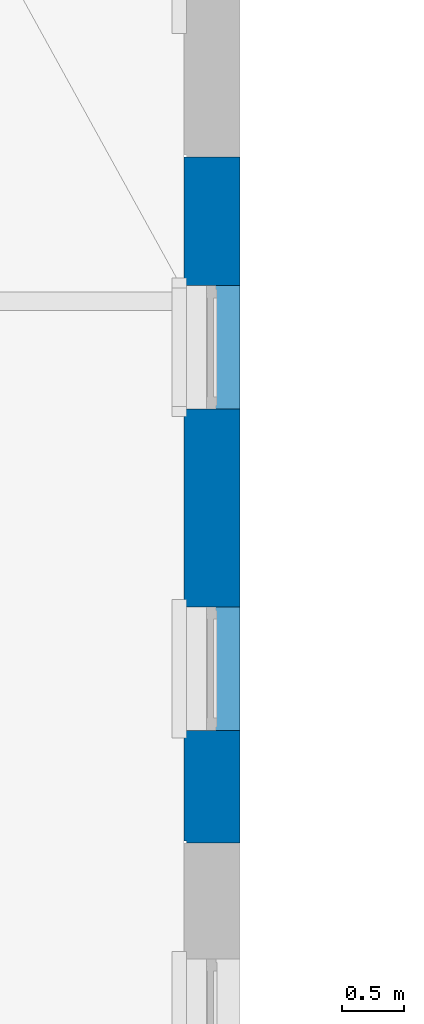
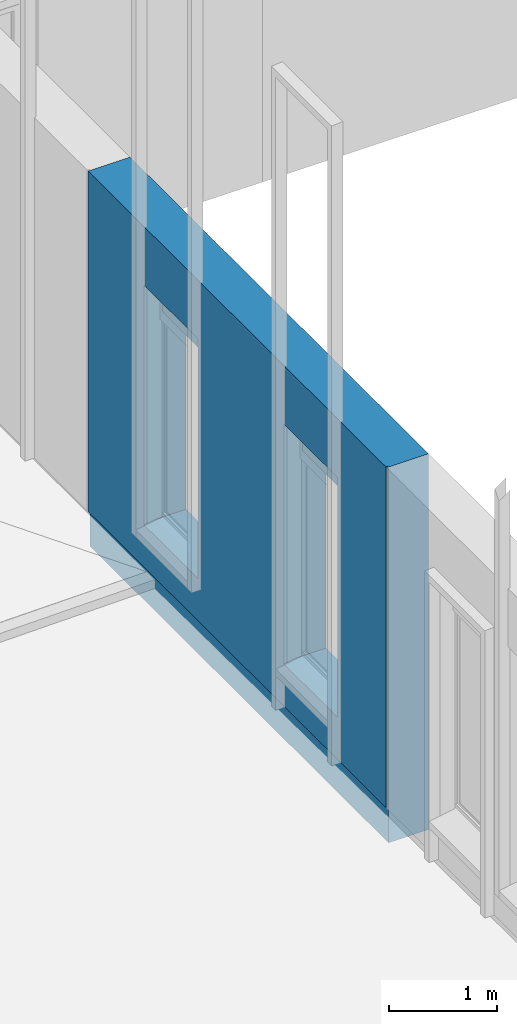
# One storey, part 19 of 77: 1 wall, 4 openings.
"""IFC2X3 building model written with IfcOpenShell, lengths in millimetres."""

from ifc_helpers import new_model, entity, si_unit, converted_unit, derived_unit, direction, frame, frame_2d, origin, place, context, subcontext, project, spatial, rectangle, extrude, faceted_brep, material, layer, layer_set, layer_usage, type_object, element, save


model = new_model("IFC2X3")

# Units and contexts
model_context = context("Model", 3, precision=0.01, world=origin(), true_north=direction((6.12303176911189e-17, 1.0)))
body_context = subcontext(model_context, "Body", "Model", "MODEL_VIEW")
ifc_project = project(units=[si_unit("LENGTHUNIT", "METRE", prefix="MILLI"), si_unit("AREAUNIT", "SQUARE_METRE"), si_unit("VOLUMEUNIT", "CUBIC_METRE"), converted_unit("PLANEANGLEUNIT", "DEGREE", entity("IfcRatioMeasure", 0.0174532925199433), si_unit("PLANEANGLEUNIT", "RADIAN"), dimensions=[0, 0, 0, 0, 0, 0, 0]), si_unit("MASSUNIT", "GRAM", prefix="KILO"), derived_unit("MASSDENSITYUNIT", [(si_unit("MASSUNIT", "GRAM", prefix="KILO"), 1), (si_unit("LENGTHUNIT", "METRE"), -3)]), si_unit("TIMEUNIT", "SECOND"), si_unit("FREQUENCYUNIT", "HERTZ"), si_unit("THERMODYNAMICTEMPERATUREUNIT", "DEGREE_CELSIUS"), derived_unit("THERMALTRANSMITTANCEUNIT", [(si_unit("MASSUNIT", "GRAM", prefix="KILO"), 1), (si_unit("THERMODYNAMICTEMPERATUREUNIT", "KELVIN"), -1), (si_unit("TIMEUNIT", "SECOND"), -3)]), derived_unit("VOLUMETRICFLOWRATEUNIT", [(si_unit("LENGTHUNIT", "METRE"), 3), (si_unit("TIMEUNIT", "SECOND"), -1)]), si_unit("ELECTRICCURRENTUNIT", "AMPERE"), si_unit("ELECTRICVOLTAGEUNIT", "VOLT"), si_unit("POWERUNIT", "WATT"), si_unit("FORCEUNIT", "NEWTON", prefix="KILO"), si_unit("ILLUMINANCEUNIT", "LUX"), si_unit("LUMINOUSFLUXUNIT", "LUMEN"), si_unit("LUMINOUSINTENSITYUNIT", "CANDELA"), derived_unit("USERDEFINED", [(si_unit("MASSUNIT", "GRAM", prefix="KILO"), -1), (si_unit("LENGTHUNIT", "METRE"), -2), (si_unit("TIMEUNIT", "SECOND"), 3), (si_unit("LUMINOUSFLUXUNIT", "LUMEN"), 1)]), derived_unit("LINEARVELOCITYUNIT", [(si_unit("LENGTHUNIT", "METRE"), 1), (si_unit("TIMEUNIT", "SECOND"), -1)]), si_unit("PRESSUREUNIT", "PASCAL"), derived_unit("USERDEFINED", [(si_unit("LENGTHUNIT", "METRE"), -2), (si_unit("MASSUNIT", "GRAM", prefix="KILO"), 1), (si_unit("TIMEUNIT", "SECOND"), -2)])], contexts=[model_context])

# Site, building, storey
site_placement = place(None, origin())
site = spatial("IfcSite", under=ifc_project, at=site_placement, Name="Default", CompositionType="ELEMENT")
building_placement = place(site_placement, origin())
building = spatial("IfcBuilding", under=site, at=building_placement, CompositionType="ELEMENT")
storey_placement = place(building_placement, origin())
storey = spatial("IfcBuildingStorey", under=building, at=storey_placement, Name="1. KORRUS", CompositionType="ELEMENT", Elevation=0.0)

# Wall, openings
ifc_material_1 = material(Name="RECKLI 1 173 THUR by Polantis 2016-toon3")
ifc_layer_1 = layer(ifc_material_1, 100.0)
ifc_material_2 = material(Name="Soojusisolatsioon EPS")
ifc_layer_2 = layer(ifc_material_2, 200.0)
ifc_material_3 = material(Name="r/b")
ifc_layer_3 = layer(ifc_material_3, 150.0)
ifc_layer_set = layer_set([ifc_layer_1, ifc_layer_2, ifc_layer_3], Name="Basic Wall:VS-1_toon-b")
ifc_layer_usage = layer_usage(ifc_layer_set, "AXIS2", "POSITIVE", -225.0)
wall_type = type_object("IfcWallType", Name="Basic Wall:VS-1_toon-b", PredefinedType="STANDARD", material=ifc_layer_set)
wall_placement = place(storey_placement, frame((-225.0, 23290.0, -400.0), z_axis=(0.0, 0.0, 1.0), x_axis=(0.0, -1.0, 0.0)))
wall = element("IfcWallStandardCase", 1, at=wall_placement, inside=storey, type_object=wall_type, material=ifc_layer_usage, Name="Basic Wall:VS-1_toon-b", ObjectType="Basic Wall:VS-1_toon-b", context=body_context, shape_type="SweptSolid", body=[
    extrude(rectangle(XDim=5549.99930276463, YDim=450.0, at=frame_2d((2774.99965138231, 0.0), x_axis=(-1.0, 0.0))), origin(), (0.0, 0.0, 1.0), 4265.0),
])
opening_1_placement = place(wall_placement, origin())
element("IfcOpeningElement", 2, at=opening_1_placement, cuts=wall, Name="Basic Wall:VS-1_toon-b", ObjectType="Recess", context=body_context, shape_type="SweptSolid", body=[
    extrude(rectangle(XDim=4265.0, YDim=16.0000000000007, at=frame_2d((0.0, 2.16626716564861e-12), x_axis=(1.0, 0.0))), frame((5542.05680616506, -225.0, 2132.5), z_axis=(0.0, 1.0, 0.0), x_axis=(0.0, 0.0, -1.0)), (0.0, 0.0, 1.0), 20.0),
])
opening_2_placement = place(wall_placement, origin())
element("IfcOpeningElement", 3, at=opening_2_placement, cuts=wall, Name="Basic Wall:VS-1_toon-b", ObjectType="Opening", context=body_context, shape_type="Brep", body=[
    faceted_brep([(-4740.0, -205.0, 400.0), (-4740.0, -205.0, 0.0), (-4760.0, -225.0, 0.0), (-4760.0, -225.0, 400.0), (0.0, -205.0, 400.0), (0.0, -225.0, 400.0), (0.0, -225.0, 0.0), (0.0, -205.0, 0.0)], [[[0, 1, 2, 3]], [[4, 5, 6, 7]], [[1, 0, 4, 7]], [[2, 1, 7, 6]], [[3, 2, 6, 5]], [[0, 3, 5, 4]]]),
    faceted_brep([(-4740.0, -205.0, 400.0), (-4760.0, -225.0, 400.0), (-4760.0, -225.0, 0.0), (-4740.0, -205.0, 0.0), (-4740.0, 4135.0, 400.0), (-4740.0, 4135.0, 0.0), (-4760.0, 4135.0, 0.0), (-4760.0, 4135.0, 400.0)], [[[0, 1, 2, 3]], [[4, 5, 6, 7]], [[1, 0, 4, 7]], [[2, 1, 7, 6]], [[3, 2, 6, 5]], [[0, 3, 5, 4]]]),
    faceted_brep([(-4740.0, 9855.0, 400.0), (-4760.0, 9875.0, 400.0), (-4760.0, 9875.0, 0.0), (-4740.0, 9855.0, 0.0), (1359.94821928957, 9855.0, 400.0), (1359.94821928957, 9855.0, 0.0), (1339.94821928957, 9875.0, 0.0), (1339.94821928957, 9875.0, 400.0)], [[[0, 1, 2, 3]], [[4, 5, 6, 7]], [[1, 0, 4, 7]], [[2, 1, 7, 6]], [[3, 2, 6, 5]], [[0, 3, 5, 4]]]),
    faceted_brep([(1359.94821928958, 14575.0, 400.0), (1339.94821928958, 14575.0, 400.0), (1339.94821928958, 14575.0, 0.0), (1359.94821928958, 14575.0, 0.0), (1359.94821928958, 15105.0, 400.0), (1359.94821928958, 15105.0, 0.0), (1339.94821928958, 15105.0, 0.0), (1339.94821928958, 15105.0, 400.0)], [[[0, 1, 2, 3]], [[4, 5, 6, 7]], [[1, 0, 4, 7]], [[2, 1, 7, 6]], [[3, 2, 6, 5]], [[0, 3, 5, 4]]]),
    faceted_brep([(1359.94821928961, 40155.0, 400.0), (1339.94821928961, 40175.0, 400.0), (1339.94821928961, 40175.0, 0.0), (1359.94821928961, 40155.0, 0.0), (7500.0, 40155.0, 400.0), (7500.0, 40155.0, 0.0), (7500.0, 40175.0, 0.0), (7500.0, 40175.0, 400.0)], [[[0, 1, 2, 3]], [[4, 5, 6, 7]], [[1, 0, 4, 7]], [[2, 1, 7, 6]], [[3, 2, 6, 5]], [[0, 3, 5, 4]]]),
    faceted_brep([(23720.0, 40155.0, 400.0), (23740.0, 40175.0, 400.0), (23740.0, 40175.0, 0.0), (23720.0, 40155.0, 0.0), (23720.0, 35025.0, 400.0), (23720.0, 35025.0, 0.0), (23740.0, 35025.0, 0.0), (23740.0, 35025.0, 400.0)], [[[0, 1, 2, 3]], [[4, 5, 6, 7]], [[1, 0, 4, 7]], [[2, 1, 7, 6]], [[3, 2, 6, 5]], [[0, 3, 5, 4]]]),
    faceted_brep([(23720.0, 11625.0, 400.0), (23740.0, 11625.0, 400.0), (23740.0, 11625.0, 0.0), (23720.0, 11625.0, 0.0), (23720.0, 7840.0, 400.0), (23720.0, 7840.0, 0.0), (23740.0, 7840.0, 0.0), (23740.0, 7840.0, 400.0)], [[[0, 1, 2, 3]], [[4, 5, 6, 7]], [[1, 0, 4, 7]], [[2, 1, 7, 6]], [[3, 2, 6, 5]], [[0, 3, 5, 4]]]),
    faceted_brep([(10530.0, 40155.0, 400.0), (10530.0, 40175.0, 400.0), (10530.0, 40175.0, 0.0), (10530.0, 40155.0, 0.0), (14646.67, 40155.0, 400.0), (14646.67, 40155.0, 0.0), (14646.67, 40175.0, 0.0), (14646.67, 40175.0, 400.0)], [[[0, 1, 2, 3]], [[4, 5, 6, 7]], [[1, 0, 4, 7]], [[2, 1, 7, 6]], [[3, 2, 6, 5]], [[0, 3, 5, 4]]]),
    faceted_brep([(23720.0, 31425.0, 400.0), (23740.0, 31425.0, 400.0), (23740.0, 31425.0, 0.0), (23720.0, 31425.0, 0.0), (23720.0, 29025.0, 400.0), (23720.0, 29025.0, 0.0), (23740.0, 29025.0, 0.0), (23740.0, 29025.0, 400.0)], [[[0, 1, 2, 3]], [[4, 5, 6, 7]], [[1, 0, 4, 7]], [[2, 1, 7, 6]], [[3, 2, 6, 5]], [[0, 3, 5, 4]]]),
    faceted_brep([(23720.0, 4015.030823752, 400.0), (23740.0, 4015.030823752, 400.0), (23740.0, 4015.030823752, 0.0), (23720.0, 4015.030823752, 0.0), (23720.0, 1530.030823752, 400.0), (23720.0, 1530.030823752, 0.0), (23740.0, 1530.030823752, 0.0), (23740.0, 1530.030823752, 400.0)], [[[0, 1, 2, 3]], [[4, 5, 6, 7]], [[1, 0, 4, 7]], [[2, 1, 7, 6]], [[3, 2, 6, 5]], [[0, 3, 5, 4]]]),
    faceted_brep([(23720.0, 16225.0, 400.0), (23740.0, 16225.0, 400.0), (23740.0, 16225.0, 0.0), (23720.0, 16225.0, 0.0), (23720.0, 15225.0, 400.0), (23720.0, 15225.0, 0.0), (23740.0, 15225.0, 0.0), (23740.0, 15225.0, 400.0)], [[[0, 1, 2, 3]], [[4, 5, 6, 7]], [[1, 0, 4, 7]], [[2, 1, 7, 6]], [[3, 2, 6, 5]], [[0, 3, 5, 4]]]),
    faceted_brep([(23720.0, 20825.0316629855, 400.0), (23740.0, 20825.0316629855, 400.0), (23740.0, 20825.0316629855, 0.0), (23720.0, 20825.0316629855, 0.0), (23720.0, 19825.0, 400.0), (23720.0, 19825.0, 0.0), (23740.0, 19825.0, 0.0), (23740.0, 19825.0, 400.0)], [[[0, 1, 2, 3]], [[4, 5, 6, 7]], [[1, 0, 4, 7]], [[2, 1, 7, 6]], [[3, 2, 6, 5]], [[0, 3, 5, 4]]]),
    faceted_brep([(23720.0, 25425.0316629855, 400.0), (23740.0, 25425.0316629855, 400.0), (23740.0, 25425.0316629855, 0.0), (23720.0, 25425.0316629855, 0.0), (23720.0, 24425.0, 400.0), (23720.0, 24425.0, 0.0), (23740.0, 24425.0, 0.0), (23740.0, 24425.0, 400.0)], [[[0, 1, 2, 3]], [[4, 5, 6, 7]], [[1, 0, 4, 7]], [[2, 1, 7, 6]], [[3, 2, 6, 5]], [[0, 3, 5, 4]]]),
    faceted_brep([(18875.0, 40155.0, 400.0), (18875.0, 40175.0, 400.0), (18875.0, 40175.0, 0.0), (18875.0, 40155.0, 0.0), (23720.0, 40155.0, 400.0), (23720.0, 40155.0, 0.0), (23740.0, 40175.0, 0.0), (23740.0, 40175.0, 400.0)], [[[0, 1, 2, 3]], [[4, 5, 6, 7]], [[1, 0, 4, 7]], [[2, 1, 7, 6]], [[3, 2, 6, 5]], [[0, 3, 5, 4]]]),
    faceted_brep([(14646.67, 40155.0, 400.0), (14646.67, 40175.0, 400.0), (14646.67, 40175.0, 0.0), (14646.67, 40155.0, 0.0), (18875.0, 40155.0, 400.0), (18875.0, 40155.0, 0.0), (18875.0, 40175.0, 0.0), (18875.0, 40175.0, 400.0)], [[[0, 1, 2, 3]], [[4, 5, 6, 7]], [[1, 0, 4, 7]], [[2, 1, 7, 6]], [[3, 2, 6, 5]], [[0, 3, 5, 4]]]),
    faceted_brep([(7500.0, 40155.0, 400.0), (7500.0, 40175.0, 400.0), (7500.0, 40175.0, 0.0), (7500.0, 40155.0, 0.0), (10530.0, 40155.0, 400.0), (10530.0, 40155.0, 0.0), (10530.0, 40175.0, 0.0), (10530.0, 40175.0, 400.0)], [[[0, 1, 2, 3]], [[4, 5, 6, 7]], [[1, 0, 4, 7]], [[2, 1, 7, 6]], [[3, 2, 6, 5]], [[0, 3, 5, 4]]]),
    faceted_brep([(1359.9482192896, 34195.1035702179, 400.0), (1339.9482192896, 34195.1035702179, 400.0), (1339.9482192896, 34195.1035702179, 0.0), (1359.9482192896, 34195.1035702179, 0.0), (1359.94821928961, 40155.0, 400.0), (1359.94821928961, 40155.0, 0.0), (1339.94821928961, 40175.0, 0.0), (1339.94821928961, 40175.0, 400.0)], [[[0, 1, 2, 3]], [[4, 5, 6, 7]], [[1, 0, 4, 7]], [[2, 1, 7, 6]], [[3, 2, 6, 5]], [[0, 3, 5, 4]]]),
    faceted_brep([(1359.9482192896, 28888.2161487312, 400.0), (1339.9482192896, 28888.2161487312, 400.0), (1339.9482192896, 28888.2161487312, 0.0), (1359.9482192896, 28888.2161487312, 0.0), (1359.9482192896, 34195.1035702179, 400.0), (1359.9482192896, 34195.1035702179, 0.0), (1339.9482192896, 34195.1035702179, 0.0), (1339.9482192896, 34195.1035702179, 400.0)], [[[0, 1, 2, 3]], [[4, 5, 6, 7]], [[1, 0, 4, 7]], [[2, 1, 7, 6]], [[3, 2, 6, 5]], [[0, 3, 5, 4]]]),
    faceted_brep([(23720.0, 7840.0, 400.0), (23740.0, 7840.0, 400.0), (23740.0, 7840.0, 0.0), (23720.0, 7840.0, 0.0), (23720.0, 4015.030823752, 400.0), (23720.0, 4015.030823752, 0.0), (23740.0, 4015.030823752, 0.0), (23740.0, 4015.030823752, 400.0)], [[[0, 1, 2, 3]], [[4, 5, 6, 7]], [[1, 0, 4, 7]], [[2, 1, 7, 6]], [[3, 2, 6, 5]], [[0, 3, 5, 4]]]),
    faceted_brep([(1359.94821928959, 22310.0, 400.0), (1339.94821928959, 22310.0, 400.0), (1339.94821928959, 22310.0, 0.0), (1359.94821928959, 22310.0, 0.0), (1359.9482192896, 28888.2161487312, 400.0), (1359.9482192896, 28888.2161487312, 0.0), (1339.9482192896, 28888.2161487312, 0.0), (1339.9482192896, 28888.2161487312, 400.0)], [[[0, 1, 2, 3]], [[4, 5, 6, 7]], [[1, 0, 4, 7]], [[2, 1, 7, 6]], [[3, 2, 6, 5]], [[0, 3, 5, 4]]]),
    faceted_brep([(1359.94821928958, 18478.3528910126, 400.0), (1339.94821928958, 18478.3528910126, 400.0), (1339.94821928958, 18478.3528910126, 0.0), (1359.94821928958, 18478.3528910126, 0.0), (1359.94821928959, 22310.0, 400.0), (1359.94821928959, 22310.0, 0.0), (1339.94821928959, 22310.0, 0.0), (1339.94821928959, 22310.0, 400.0)], [[[0, 1, 2, 3]], [[4, 5, 6, 7]], [[1, 0, 4, 7]], [[2, 1, 7, 6]], [[3, 2, 6, 5]], [[0, 3, 5, 4]]]),
    faceted_brep([(1359.94821928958, 15105.0, 400.0), (1339.94821928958, 15105.0, 400.0), (1339.94821928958, 15105.0, 0.0), (1359.94821928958, 15105.0, 0.0), (1359.94821928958, 18478.3528910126, 400.0), (1359.94821928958, 18478.3528910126, 0.0), (1339.94821928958, 18478.3528910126, 0.0), (1339.94821928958, 18478.3528910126, 400.0)], [[[0, 1, 2, 3]], [[4, 5, 6, 7]], [[1, 0, 4, 7]], [[2, 1, 7, 6]], [[3, 2, 6, 5]], [[0, 3, 5, 4]]]),
    faceted_brep([(-4740.0, 4135.0, 400.0), (-4760.0, 4135.0, 400.0), (-4760.0, 4135.0, 0.0), (-4740.0, 4135.0, 0.0), (-4740.0, 9855.0, 400.0), (-4740.0, 9855.0, 0.0), (-4760.0, 9875.0, 0.0), (-4760.0, 9875.0, 400.0)], [[[0, 1, 2, 3]], [[4, 5, 6, 7]], [[1, 0, 4, 7]], [[2, 1, 7, 6]], [[3, 2, 6, 5]], [[0, 3, 5, 4]]]),
    faceted_brep([(0.0, -205.0, 400.0), (0.0, -205.0, 0.0), (0.0, -225.0, 0.0), (0.0, -225.0, 400.0), (5549.99930276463, -205.0, 400.0), (5549.99930276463, -225.0, 400.0), (5549.99930276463, -225.0, 0.0), (5549.99930276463, -205.0, 0.0)], [[[0, 1, 2, 3]], [[4, 5, 6, 7]], [[1, 0, 4, 7]], [[2, 1, 7, 6]], [[3, 2, 6, 5]], [[0, 3, 5, 4]]]),
    faceted_brep([(5549.99930276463, -205.0, 400.0), (5549.99930276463, -205.0, 0.0), (5549.99930276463, -225.0, 0.0), (5549.99930276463, -225.0, 400.0), (10490.0, -205.0, 400.0), (10490.0, -225.0, 400.0), (10490.0, -225.0, 0.0), (10490.0, -205.0, 0.0)], [[[0, 1, 2, 3]], [[4, 5, 6, 7]], [[1, 0, 4, 7]], [[2, 1, 7, 6]], [[3, 2, 6, 5]], [[0, 3, 5, 4]]]),
    faceted_brep([(1359.94821928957, 9855.0, 400.0), (1339.94821928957, 9875.0, 400.0), (1339.94821928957, 9875.0, 0.0), (1359.94821928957, 9855.0, 0.0), (1359.94821928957, 10975.0, 400.0), (1359.94821928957, 10975.0, 0.0), (1339.94821928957, 10975.0, 0.0), (1339.94821928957, 10975.0, 400.0)], [[[0, 1, 2, 3]], [[4, 5, 6, 7]], [[1, 0, 4, 7]], [[2, 1, 7, 6]], [[3, 2, 6, 5]], [[0, 3, 5, 4]]]),
])
opening_3_placement = place(wall_placement, frame((4639.9967037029, -225.0, 878.057009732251), z_axis=(0.0, 0.0, 1.0), x_axis=(0.0, 1.0, 0.0)))
element("IfcOpeningElement", 4, at=opening_3_placement, cuts=wall, Name="Basic Wall:VS-1_toon-b", ObjectType="Opening", context=body_context, shape_type="Brep", body=[
    faceted_brep([(450.0, 0.0, 2346.94299026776), (450.0, 0.0, 21.9429902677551), (450.0, 1000.0, 21.9429902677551), (450.0, 1000.0, 2346.94299026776), (0.0, 1000.0, 2721.94299026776), (0.0, 1000.0, 0.0), (0.0, 0.0, 0.0), (0.0, 0.0, 2721.94299026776), (200.0, 0.0, 2346.94299026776), (200.0, 0.0, 2721.94299026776), (124.444881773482, 0.0, 21.9429902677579), (124.444881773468, 1000.0, 21.9429902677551), (200.0, 1000.0, 2721.94299026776), (200.0, 1000.0, 2346.94299026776)], [[[0, 1, 2, 3]], [[4, 5, 6, 7]], [[0, 8, 9, 7, 6, 10, 1]], [[1, 10, 11, 2]], [[2, 11, 5, 4, 12, 13, 3]], [[3, 13, 8, 0]], [[9, 8, 13, 12]], [[12, 4, 7, 9]], [[6, 5, 11, 10]]]),
])
opening_4_placement = place(wall_placement, frame((2040.00119120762, -225.0, 878.057009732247), z_axis=(0.0, 0.0, 1.0), x_axis=(0.0, 1.0, 0.0)))
element("IfcOpeningElement", 5, at=opening_4_placement, cuts=wall, Name="Basic Wall:VS-1_toon-b", ObjectType="Opening", context=body_context, shape_type="Brep", body=[
    faceted_brep([(450.0, 0.0, 2346.94299026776), (450.0, 0.0, 21.9429902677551), (450.0, 1000.0, 21.9429902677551), (450.0, 1000.0, 2346.94299026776), (0.0, 1000.0, 2721.94299026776), (0.0, 1000.0, 0.0), (0.0, 0.0, 0.0), (0.0, 0.0, 2721.94299026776), (200.0, 0.0, 2346.94299026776), (200.0, 0.0, 2721.94299026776), (124.444881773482, 0.0, 21.9429902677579), (124.444881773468, 1000.0, 21.9429902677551), (200.0, 1000.0, 2721.94299026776), (200.0, 1000.0, 2346.94299026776)], [[[0, 1, 2, 3]], [[4, 5, 6, 7]], [[0, 8, 9, 7, 6, 10, 1]], [[1, 10, 11, 2]], [[2, 11, 5, 4, 12, 13, 3]], [[3, 13, 8, 0]], [[9, 8, 13, 12]], [[12, 4, 7, 9]], [[6, 5, 11, 10]]]),
])

save(model, "model.ifc")
